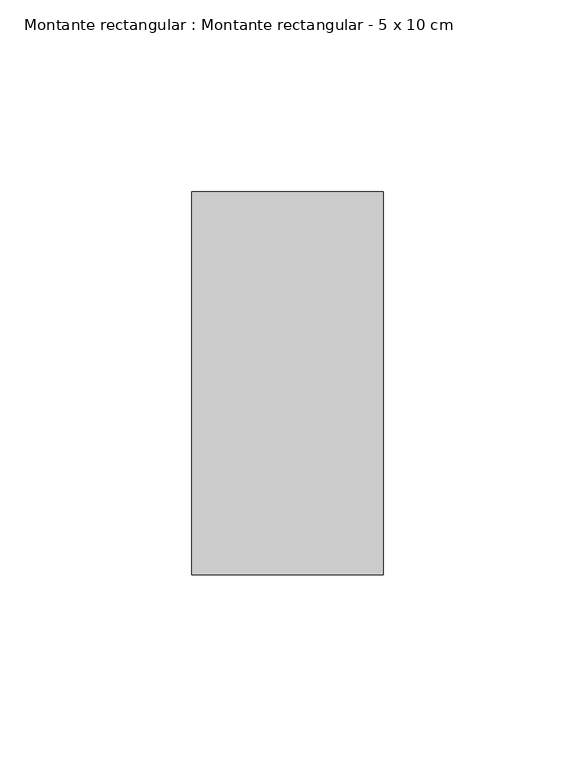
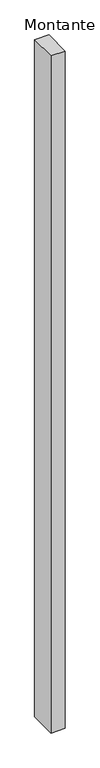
"""IFC4 building model written with IfcOpenShell, lengths in millimetres: member geometry, Montante rectangular : Montante rectangular - 5 x 10 cm."""

from ifc_helpers import new_model, si_unit, frame, origin, place, context, project, spatial, polyline, outline, extrude, source, transform, mapped, element, save


def montante_rectangular_montante_rectangular_5_x_10_cm_b3ff1bda(model_context):
    return source(origin(), model_context, "Body", "SweptSolid", [
        extrude(outline(polyline([(-50.0, 50.0), (0.0, 50.0), (0.0, -50.0), (-50.0, -50.0), (-50.0, 50.0)])), frame((0.0, 0.0, -2526.4770972), z_axis=(0.0, 0.0, 1.0), x_axis=(1.0, 0.0, 0.0)), (0.0, 0.0, 1.0), 2526.4770972),
    ])


if __name__ == "__main__":
    model = new_model("IFC4")
    model_context = context("Model", 3, world=origin())
    ifc_project = project(units=[si_unit("LENGTHUNIT", "METRE", prefix="MILLI")], contexts=[model_context])
    site = spatial("IfcSite", under=ifc_project)
    building = spatial("IfcBuilding", under=site)
    placement = place(None, origin())
    montante_rectangular_montante_rectangular_5_x_10_cm_shape = montante_rectangular_montante_rectangular_5_x_10_cm_b3ff1bda(model_context)
    element("IfcMember", 1, ObjectType="Montante rectangular : Montante rectangular - 5 x 10 cm", at=placement, inside=building, context=model_context, shape_type="MappedRepresentation", body=[
        mapped(montante_rectangular_montante_rectangular_5_x_10_cm_shape, transform((0.0, 0.0, 0.0), x_axis=(1.0, 0.0, 0.0), y_axis=(0.0, 1.0, 0.0), z_axis=(0.0, 0.0, 1.0))),
    ])
    save(model, "model.ifc")
